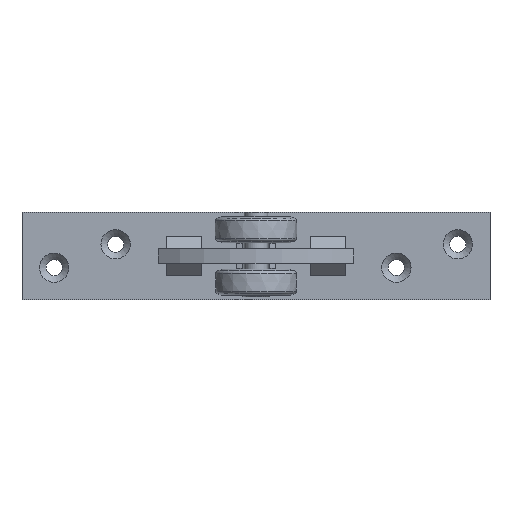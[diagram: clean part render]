
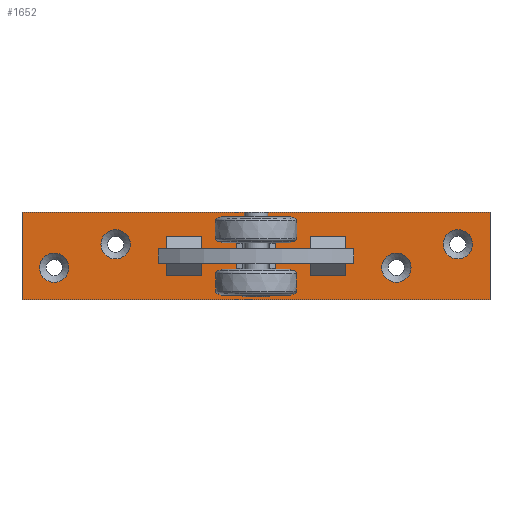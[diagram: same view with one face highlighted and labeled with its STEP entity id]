
A CAD part, front view. The second image highlights one B-rep face of the part: STEP entity #1652.
In plain terms, the highlighted planar face has unit normal (0, -1, 0) as drawn and (0, 0, 1) by its records, which use the part's own axes.
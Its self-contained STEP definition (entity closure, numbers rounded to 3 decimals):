
#89=FACE_BOUND('',#391,.T.);
#90=FACE_BOUND('',#392,.T.);
#91=FACE_BOUND('',#393,.T.);
#92=FACE_BOUND('',#394,.T.);
#125=CIRCLE('',#1766,5.);
#128=CIRCLE('',#1771,5.);
#131=CIRCLE('',#1776,5.);
#134=CIRCLE('',#1781,5.);
#273=FACE_OUTER_BOUND('',#390,.T.);
#390=EDGE_LOOP('',(#1266,#1267,#1268,#1269));
#391=EDGE_LOOP('',(#1270));
#392=EDGE_LOOP('',(#1271));
#393=EDGE_LOOP('',(#1272));
#394=EDGE_LOOP('',(#1273));
#541=LINE('',#2579,#673);
#545=LINE('',#2586,#677);
#548=LINE('',#2592,#680);
#550=LINE('',#2595,#682);
#673=VECTOR('',#2085,30.);
#677=VECTOR('',#2091,160.);
#680=VECTOR('',#2096,30.);
#682=VECTOR('',#2100,160.);
#789=VERTEX_POINT('',#2541);
#792=VERTEX_POINT('',#2549);
#795=VERTEX_POINT('',#2557);
#798=VERTEX_POINT('',#2565);
#803=VERTEX_POINT('',#2576);
#804=VERTEX_POINT('',#2578);
#806=VERTEX_POINT('',#2584);
#808=VERTEX_POINT('',#2590);
#961=EDGE_CURVE('',#789,#789,#125,.T.);
#964=EDGE_CURVE('',#792,#792,#128,.T.);
#967=EDGE_CURVE('',#795,#795,#131,.T.);
#970=EDGE_CURVE('',#798,#798,#134,.T.);
#975=EDGE_CURVE('',#803,#804,#541,.T.);
#979=EDGE_CURVE('',#806,#803,#545,.T.);
#982=EDGE_CURVE('',#808,#806,#548,.T.);
#984=EDGE_CURVE('',#804,#808,#550,.T.);
#1266=ORIENTED_EDGE('',*,*,#984,.F.);
#1267=ORIENTED_EDGE('',*,*,#975,.F.);
#1268=ORIENTED_EDGE('',*,*,#979,.F.);
#1269=ORIENTED_EDGE('',*,*,#982,.F.);
#1270=ORIENTED_EDGE('',*,*,#961,.T.);
#1271=ORIENTED_EDGE('',*,*,#964,.T.);
#1272=ORIENTED_EDGE('',*,*,#967,.T.);
#1273=ORIENTED_EDGE('',*,*,#970,.T.);
#1571=PLANE('',#1789);
#1652=ADVANCED_FACE('',(#273,#89,#90,#91,#92),#1571,.T.);
#1766=AXIS2_PLACEMENT_3D('',#2542,#2043,#2044);
#1771=AXIS2_PLACEMENT_3D('',#2550,#2053,#2054);
#1776=AXIS2_PLACEMENT_3D('',#2558,#2063,#2064);
#1781=AXIS2_PLACEMENT_3D('',#2566,#2073,#2074);
#1789=AXIS2_PLACEMENT_3D('',#2596,#2101,#2102);
#2043=DIRECTION('center_axis',(0.,0.,-1.));
#2044=DIRECTION('ref_axis',(1.,0.,0.));
#2053=DIRECTION('center_axis',(0.,0.,-1.));
#2054=DIRECTION('ref_axis',(1.,0.,0.));
#2063=DIRECTION('center_axis',(0.,0.,-1.));
#2064=DIRECTION('ref_axis',(1.,0.,0.));
#2073=DIRECTION('center_axis',(0.,0.,-1.));
#2074=DIRECTION('ref_axis',(1.,0.,0.));
#2085=DIRECTION('',(0.,1.,0.));
#2091=DIRECTION('',(-1.,0.,0.));
#2096=DIRECTION('',(0.,-1.,0.));
#2100=DIRECTION('',(1.,0.,0.));
#2101=DIRECTION('center_axis',(0.,0.,1.));
#2102=DIRECTION('ref_axis',(1.,0.,0.));
#2541=CARTESIAN_POINT('',(74.,4.,0.));
#2542=CARTESIAN_POINT('Origin',(69.,4.,0.));
#2549=CARTESIAN_POINT('',(53.,-4.,0.));
#2550=CARTESIAN_POINT('Origin',(48.,-4.,0.));
#2557=CARTESIAN_POINT('',(-43.,4.,0.));
#2558=CARTESIAN_POINT('Origin',(-48.,4.,0.));
#2565=CARTESIAN_POINT('',(-64.,-4.,0.));
#2566=CARTESIAN_POINT('Origin',(-69.,-4.,0.));
#2576=CARTESIAN_POINT('',(-80.,-15.,0.));
#2578=CARTESIAN_POINT('',(-80.,15.,0.));
#2579=CARTESIAN_POINT('',(-80.,-15.,0.));
#2584=CARTESIAN_POINT('',(80.,-15.,0.));
#2586=CARTESIAN_POINT('',(80.,-15.,0.));
#2590=CARTESIAN_POINT('',(80.,15.,0.));
#2592=CARTESIAN_POINT('',(80.,15.,0.));
#2595=CARTESIAN_POINT('',(-80.,15.,0.));
#2596=CARTESIAN_POINT('Origin',(0.,0.,
0.));
